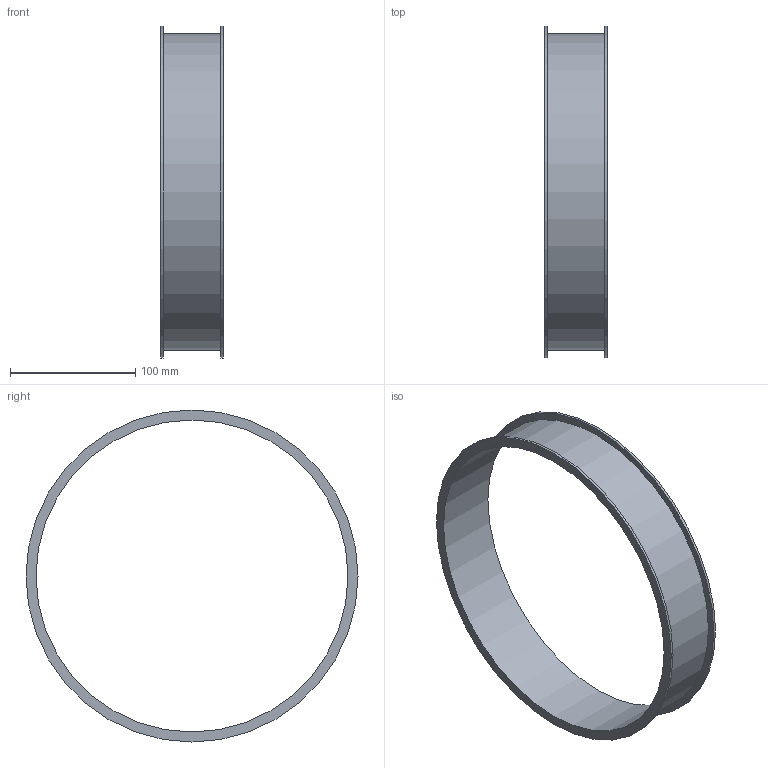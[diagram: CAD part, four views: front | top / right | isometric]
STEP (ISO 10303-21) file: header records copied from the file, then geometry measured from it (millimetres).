
FILE_DESCRIPTION((''),'2;1');
FILE_NAME('U:\Wolfgang\Marcel-3D\fertig\Kapitel 1\2521005.stp','2010-05-31T11:33:06',('TK2'),(''),'Autodesk Inventor 2010','Autodesk Inventor 2010','');
FILE_SCHEMA(('AUTOMOTIVE_DESIGN { 1 0 10303 214 1 1 1 1 }'));
Length unit declared in the file: millimetre
Products named in the file (1): 2521005
Bounding box: 50 x 265 x 265 mm (x, y, z)
Volume: 98382.1 mm3; surface area: 101687.1 mm2
Topology: 1 solids, 1 shells, 8 faces, 12 edges, 8 vertices
Faces by surface type: cylinder 4, plane 4
Full cylindrical faces by diameter (mm): 249 x1, 253 x1, 265 x2
Entity records: 194 total; most frequent: DIRECTION 34, CARTESIAN_POINT 25, AXIS2_PLACEMENT_3D 17, ORIENTED_EDGE 16, EDGE_LOOP 16, VERTEX_POINT 8, CIRCLE 8, EDGE_CURVE 8
